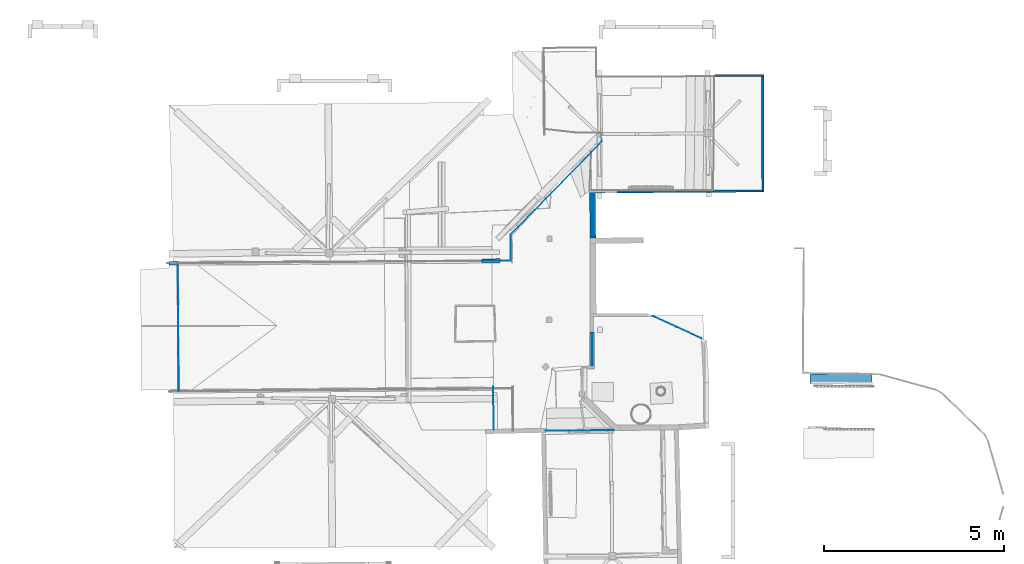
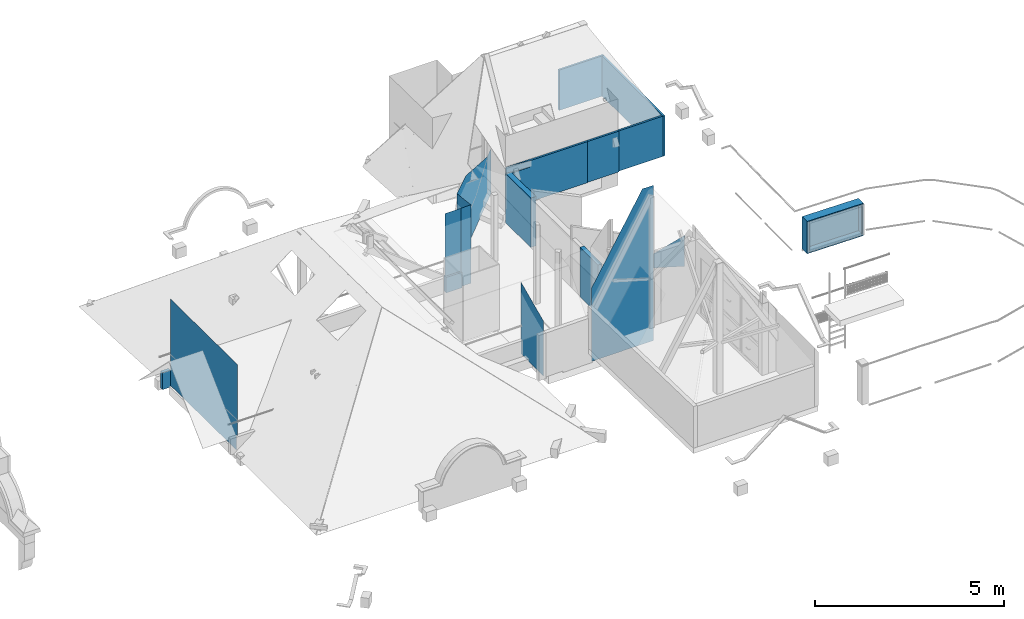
# One storey, part 12 of 39: 18 walls, 1 opening.
"""IFC2X3 building model written with IfcOpenShell, lengths in centimetres."""

from ifc_helpers import new_model, entity, si_unit, converted_unit, direction, frame, origin, origin_with_axes, origin_2d_with_axis, place, context, subcontext, project, spatial, polyline, rectangle, outline, extrude, clip, bounded_halfspace, faceted_brep, shape, material, layer, layer_set, layer_usage, type_object, element, save


model = new_model("IFC2X3")

# Units and contexts
model_context = context("Model", 3, precision=0.0001, world=origin(), true_north=direction((0.225632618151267, 0.974212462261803, 0.0)))
body_context = subcontext(model_context, "Body", "Model", "MODEL_VIEW")
footprint_context = subcontext(model_context, "FootPrint", "Model", "MODEL_VIEW")
profile_context = subcontext(model_context, "Profile", "Model", "MODEL_VIEW")
ifc_project = project(units=[si_unit("LENGTHUNIT", "METRE", prefix="CENTI"), si_unit("AREAUNIT", "SQUARE_METRE", prefix="CENTI"), si_unit("VOLUMEUNIT", "CUBIC_METRE", prefix="CENTI"), converted_unit("PLANEANGLEUNIT", "DEGREE", entity("IfcRatioMeasure", 0.0174532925), si_unit("PLANEANGLEUNIT", "RADIAN"), dimensions=[0, 0, 0, 0, 0, 0, 0])], contexts=[model_context])

# Site, building, storey
site_placement = place(None, origin_with_axes())
site = spatial("IfcSite", under=ifc_project, at=site_placement, Name="Default Site", CompositionType="ELEMENT")
building_placement = place(site_placement, origin_with_axes())
building = spatial("IfcBuilding", under=site, at=building_placement, Name="Default Building", CompositionType="ELEMENT")
storey_placement = place(building_placement, frame((0.0, 0.0, 1088.91037418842), z_axis=(0.0, 0.0, 1.0), x_axis=(1.0, 0.0, 0.0)))
storey = spatial("IfcBuildingStorey", under=building, at=storey_placement, Name="Mezzanine", CompositionType="ELEMENT", Elevation=1088.91037418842)

# Walls
ifc_material = material(Name="<aucun>")
ifc_layer_1 = layer(ifc_material, 0.0101999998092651)
ifc_layer_set_1 = layer_set([ifc_layer_1], Name="default")
ifc_layer_usage_1 = layer_usage(ifc_layer_set_1, "AXIS2", "POSITIVE", -0.0051)
wall_type_1 = type_object("IfcWallType", Name="default 0.101999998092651", PredefinedType="NOTDEFINED", material=ifc_layer_set_1)
wall_1_placement = place(storey_placement, frame((-635.646623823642, -244.404917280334, 0.0), z_axis=(0.0, 0.0, 1.0), x_axis=(-0.00657939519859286, 0.999978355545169, 0.0)))
element("IfcWall", 1, at=wall_1_placement, inside=storey, type_object=wall_type_1, material=ifc_layer_usage_1, Name="Enveloppe fantôme 2027984", context=body_context, shape_type="Brep", body=[
    faceted_brep([(350.744250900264, 2.15808539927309e-05, 1.4758109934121e-05), (5.00001343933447, 2.15350187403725e-05, 1.4758109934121e-05), (5.00001343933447, 2.15350187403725e-05, 50.0000147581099), (5.00001343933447, 2.15350187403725e-05, 57.9354433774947), (350.744250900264, 2.15808539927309e-05, 57.9354433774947), (5.00001343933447, 1.02095755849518e-05, 1.4758109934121e-05), (350.744250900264, 1.02554108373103e-05, 1.4758109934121e-05), (350.744250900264, 1.02554108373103e-05, 57.9354433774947), (5.00001343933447, 1.02095755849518e-05, 57.9354433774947), (5.00001343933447, 1.02095755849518e-05, 50.0000147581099), (5.32153689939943e-06, 1.02089127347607e-05, 50.0000147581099), (5.32153689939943e-06, 1.02089127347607e-05, 57.9354433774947), (5.32153690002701e-06, 5.47496030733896e-06, 50.0000147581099), (5.00001343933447, 5.47562315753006e-06, 50.0000147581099), (5.00001343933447, 5.47562315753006e-06, 57.9354433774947), (5.32153690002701e-06, 5.47496030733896e-06, 57.9354433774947), (5.32153689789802e-06, 2.15343558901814e-05, 57.9354433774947), (5.32153689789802e-06, 2.15343558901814e-05, 279.702392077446), (350.744250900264, 2.15808539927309e-05, 279.702392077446), (350.744250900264, 5.5214584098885e-06, 57.9354433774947), (350.744250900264, 5.5214584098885e-06, 279.702392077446), (5.32153690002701e-06, 5.47496030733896e-06, 279.702392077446)], [[[0, 1, 2, 3, 4]], [[5, 6, 7, 8, 9]], [[9, 10, 11, 8]], [[12, 13, 14, 15]], [[4, 3, 16, 17, 18]], [[15, 14, 19, 20, 21]]]),
])
ifc_layer_usage_2 = layer_usage(ifc_layer_set_1, "AXIS2", "POSITIVE", -0.0051)
wall_2_placement = place(storey_placement, frame((815.961020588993, -97.4227942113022, 0.0), z_axis=(0.0, 0.0, 1.0), x_axis=(-0.909423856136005, 0.415870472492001, 0.0)))
element("IfcWall", 2, at=wall_2_placement, inside=storey, type_object=wall_type_1, material=ifc_layer_usage_2, Name="Enveloppe fantôme 226769", context=body_context, shape_type="Brep", body=[
    faceted_brep([(75.4896628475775, -3.6314741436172e-06, 1.47581101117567e-05), (3.64554369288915e-05, -3.75471818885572e-06, 1.47581101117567e-05), (3.64554369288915e-05, -3.75471818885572e-06, 100.343909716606), (75.4896628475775, -3.6314741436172e-06, 51.2873797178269), (3.64554368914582e-05, 1.91739480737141e-05, 1.47581101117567e-05), (75.4896628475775, 1.92971921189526e-05, 1.47581101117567e-05), (75.4896628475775, 1.92971921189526e-05, 51.2873797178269), (3.64554368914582e-05, 1.91739480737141e-05, 100.343909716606), (76.987037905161, 3.47998772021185e-06, 1.47581101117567e-05), (75.4896628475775, 3.47754311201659e-06, 1.47581101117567e-05), (75.4896628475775, 3.47754311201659e-06, 51.2873797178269), (76.987037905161, 3.47998772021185e-06, 50.3143458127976), (76.987037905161, -3.62902953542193e-06, 1.47581101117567e-05), (76.987037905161, -3.62902953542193e-06, 50.3143458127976), (147.013885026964, -4.48236376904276e-06, 1.47581101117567e-05), (76.987037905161, -4.59668930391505e-06, 1.47581101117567e-05), (76.987037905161, -4.59668930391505e-06, 50.3143458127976), (147.013885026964, -4.48236376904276e-06, 4.80777308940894), (147.013885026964, 3.59431325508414e-06, 1.47581101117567e-05), (147.013885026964, 3.59431325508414e-06, 4.80777308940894)], [[[0, 1, 2, 3]], [[4, 5, 6, 7]], [[8, 9, 10, 11]], [[0, 12, 13, 3]], [[14, 15, 16, 17]], [[8, 18, 19, 11]]]),
])
ifc_layer_usage_3 = layer_usage(ifc_layer_set_1, "AXIS2", "POSITIVE", -0.0051)
wall_3_placement = place(storey_placement, frame((256.545247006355, 117.713748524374, 0.0), z_axis=(0.0, 0.0, 1.0), x_axis=(0.99997477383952, 0.00710293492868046, 0.0)))
element("IfcWall", 3, at=wall_3_placement, inside=storey, type_object=wall_type_1, material=ifc_layer_usage_3, Name="Enveloppe fantôme 228668", context=body_context, shape_type="Brep", body=[
    faceted_brep([(30.5781077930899, 5.90016191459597e-06, 1.47581101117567e-05), (1.05680192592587e-05, 5.89754891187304e-06, 1.47581101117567e-05), (1.05680192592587e-05, 5.89754891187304e-06, 253.213324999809), (30.5781077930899, 5.90016191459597e-06, 253.184619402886), (1.05680192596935e-05, 8.09304490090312e-07, 1.47581101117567e-05), (30.5781077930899, 8.11917492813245e-07, 1.47581101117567e-05), (30.5781077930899, 8.11917492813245e-07, 253.184619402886), (1.05680192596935e-05, 8.09304490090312e-07, 253.213324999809)], [[[0, 1, 2, 3]], [[4, 5, 6, 7]]]),
])
ifc_layer_usage_4 = layer_usage(ifc_layer_set_1, "AXIS2", "POSITIVE", -0.0051)
wall_4_placement = place(storey_placement, frame((287.122585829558, 117.930942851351, 0.0), z_axis=(0.0, 0.0, 1.0), x_axis=(-0.0172675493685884, 0.999850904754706, 0.0)))
element("IfcWall", 4, at=wall_4_placement, inside=storey, type_object=wall_type_1, material=ifc_layer_usage_4, Name="Enveloppe fantôme 227429", context=body_context, shape_type="Brep", body=[
    faceted_brep([(72.536596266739, 5.18929401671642e-06, 1.47581101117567e-05), (5.92419320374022e-06, 5.2163537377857e-06, 1.47581101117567e-05), (5.92419320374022e-06, 5.2163537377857e-06, 253.184619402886), (72.536596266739, 5.18929401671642e-06, 245.831313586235), (5.92419320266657e-06, 2.33832788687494e-06, 1.47581101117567e-05), (72.536596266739, 2.31126816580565e-06, 1.47581101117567e-05), (72.536596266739, 2.31126816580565e-06, 245.831313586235), (5.92419320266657e-06, 2.33832788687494e-06, 253.184619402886)], [[[0, 1, 2, 3]], [[4, 5, 6, 7]]]),
])
ifc_layer_usage_5 = layer_usage(ifc_layer_set_1, "AXIS2", "POSITIVE", -0.0051)
wall_5_placement = place(storey_placement, frame((207.132257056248, 117.362762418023, 50.0000000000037), z_axis=(0.0, 0.0, 1.0), x_axis=(0.99997477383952, 0.00710293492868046, 0.0)))
element("IfcWall", 5, at=wall_5_placement, inside=storey, type_object=wall_type_1, material=ifc_layer_usage_5, Name="Enveloppe fantôme 228670", context=body_context, shape_type="Brep", body=[
    faceted_brep([(49.4142470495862, 8.09376321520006e-07, 1.47581067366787e-05), (1.08889038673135e-05, 8.05153706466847e-07, 1.47581067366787e-05), (1.08889038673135e-05, 8.05153706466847e-07, 203.259768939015), (49.4142470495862, 8.09376321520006e-07, 203.213324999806), (1.08889038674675e-05, -9.97893834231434e-07, 1.47581067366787e-05), (49.4142470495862, -9.93671219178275e-07, 1.47581067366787e-05), (49.4142470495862, -9.93671219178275e-07, 203.213324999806), (1.08889038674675e-05, -9.97893834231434e-07, 203.259768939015)], [[[0, 1, 2, 3]], [[4, 5, 6, 7]]]),
])
ifc_layer_usage_6 = layer_usage(ifc_layer_set_1, "AXIS2", "POSITIVE", -0.0051)
wall_6_placement = place(storey_placement, frame((383.271642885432, -354.452819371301, 0.0), z_axis=(0.0, 0.0, 1.0), x_axis=(0.999963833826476, 0.00850476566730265, 0.0)))
element("IfcWall", 6, at=wall_6_placement, inside=storey, type_object=wall_type_1, material=ifc_layer_usage_6, Name="Enveloppe fantôme 226890", context=body_context, shape_type="Brep", body=[
    faceted_brep([(155.828059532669, 1.1004044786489e-05, 1.47581101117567e-05), (-6.79533220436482e-05, 1.09276905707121e-05, 1.47581101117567e-05), (-6.79533220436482e-05, 1.09276905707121e-05, 237.962642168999), (155.828059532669, 1.1004044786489e-05, 502.292170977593), (-6.79533220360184e-05, -4.64353004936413e-06, 1.47581101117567e-05), (155.828059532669, -4.56717583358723e-06, 1.47581101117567e-05), (155.828059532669, -4.56717583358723e-06, 502.292170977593), (-6.79533220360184e-05, -4.64353004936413e-06, 237.962642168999), (189.170911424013, -1.09226381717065e-05, 1.47581101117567e-05), (155.828059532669, -1.09389758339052e-05, 1.47581101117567e-05), (155.828059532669, -1.09389758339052e-05, 502.292170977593), (189.170911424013, -1.09226381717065e-05, 501.752295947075), (189.170911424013, 1.10203824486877e-05, 1.47581101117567e-05), (189.170911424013, 1.10203824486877e-05, 501.752295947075)], [[[0, 1, 2, 3]], [[4, 5, 6, 7]], [[8, 9, 10, 11]], [[0, 12, 13, 3]]]),
])
ifc_layer_usage_7 = layer_usage(ifc_layer_set_1, "AXIS2", "POSITIVE", -0.0051)
wall_7_placement = place(storey_placement, frame((238.916167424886, -350.385986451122, 0.0), z_axis=(0.0, 0.0, 1.0), x_axis=(-0.00420118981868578, 0.999991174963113, 0.0)))
element("IfcWall", 7, at=wall_7_placement, inside=storey, type_object=wall_type_1, material=ifc_layer_usage_7, Name="Enveloppe fantôme 227256", context=body_context, shape_type="Brep", body=[
    faceted_brep([(113.328633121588, -8.29036284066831e-06, 1.47581101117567e-05), (0.00237097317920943, -8.26557118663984e-06, 1.47581101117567e-05), (0.00237097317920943, -8.26557118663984e-06, 177.315345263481), (113.328633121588, -8.29036284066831e-06, 229.461875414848), (0.00237097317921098, -1.21218071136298e-06, 1.47581101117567e-05), (113.328633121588, -1.23697236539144e-06, 1.47581101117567e-05), (113.328633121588, -1.23697236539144e-06, 229.461875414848), (0.00237097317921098, -1.21218071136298e-06, 177.315345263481), (118.493158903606, -9.35280772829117e-06, 1.47581101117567e-05), (113.328633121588, -9.35167791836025e-06, 1.47581101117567e-05), (113.328633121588, -9.35167791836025e-06, 229.461875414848), (118.493158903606, -9.35280772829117e-06, 231.838336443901), (118.493158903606, -8.29149265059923e-06, 1.47581101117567e-05), (118.493158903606, -8.29149265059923e-06, 231.838336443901)], [[[0, 1, 2, 3]], [[4, 5, 6, 7]], [[8, 9, 10, 11]], [[0, 12, 13, 3]]]),
])
ifc_layer_usage_8 = layer_usage(ifc_layer_set_1, "AXIS2", "POSITIVE", -0.0051)
wall_8_placement = place(storey_placement, frame((285.872007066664, 190.458712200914, 0.0), z_axis=(0.0, 0.0, 1.0), x_axis=(0.700001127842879, 0.714141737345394, 0.0)))
element("IfcWall", 8, at=wall_8_placement, inside=storey, type_object=wall_type_1, material=ifc_layer_usage_8, Name="Enveloppe fantôme 227377", context=body_context, shape_type="Brep", body=[
    faceted_brep([(31.5076017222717, -8.77071406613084e-06, 1.47581101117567e-05), (-0.00278871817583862, -8.69507889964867e-06, 1.47581101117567e-05), (-0.00278871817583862, -8.69507889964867e-06, 245.831313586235), (31.5076017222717, -8.77071406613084e-06, 243.54478404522), (-0.00278871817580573, 5.00856218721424e-06, 1.47581101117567e-05), (31.5076017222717, 4.93292702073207e-06, 1.47581101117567e-05), (31.5076017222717, 4.93292702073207e-06, 243.54478404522), (-0.00278871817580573, 5.00856218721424e-06, 245.831313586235), (31.5260966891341, -8.25426491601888e-06, 1.47581101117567e-05), (31.5076017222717, -8.25422052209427e-06, 1.47581101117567e-05), (31.5076017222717, -8.25422052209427e-06, 243.54478404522), (31.5260966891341, -8.25426491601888e-06, 243.543353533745), (31.5260966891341, -8.77075846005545e-06, 1.47581101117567e-05), (31.5260966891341, -8.77075846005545e-06, 243.543353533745), (95.8722266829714, 1.36741419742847e-05, 1.47581101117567e-05), (31.5260966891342, 1.38285935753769e-05, 1.47581101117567e-05), (31.5260966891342, 1.38285935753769e-05, 243.543353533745), (95.8722266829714, 1.36741419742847e-05, 238.838401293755), (95.8722266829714, -8.40871651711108e-06, 1.47581101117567e-05), (95.8722266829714, -8.40871651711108e-06, 238.838401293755), (140.426740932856, -8.05928022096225e-06, 1.47581101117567e-05), (95.8722266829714, -7.95233492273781e-06, 1.47581101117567e-05), (95.8722266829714, -7.95233492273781e-06, 238.838496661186), (140.426740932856, -8.05928022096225e-06, 220.563235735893), (140.426740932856, 1.35671966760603e-05, 1.47581101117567e-05), (140.426740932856, 1.35671966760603e-05, 220.563235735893), (95.8722266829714, 1.36741419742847e-05, 238.838496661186), (320.501460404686, 3.01530964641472e-06, 1.47581101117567e-05), (140.426740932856, 3.44754743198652e-06, 1.47581101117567e-05), (140.426740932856, 3.44754743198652e-06, 220.563235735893), (320.501460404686, 3.01530964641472e-06, 146.700778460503), (320.501460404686, -8.49151800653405e-06, 1.47581101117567e-05), (320.501460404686, -8.49151800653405e-06, 146.700778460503)], [[[0, 1, 2, 3]], [[4, 5, 6, 7]], [[8, 9, 10, 11]], [[0, 12, 13, 3]], [[14, 15, 16, 17]], [[8, 18, 19, 11]], [[20, 21, 22, 23]], [[14, 24, 25, 26]], [[27, 28, 29, 30]], [[20, 31, 32, 23]]]),
    faceted_brep([(362.747864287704, -2.85990893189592e-06, 1.47581101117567e-05), (320.501460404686, -2.75850384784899e-06, 1.47581101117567e-05), (320.501460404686, -2.75850384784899e-06, 146.702018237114), (362.747864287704, -2.85990893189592e-06, 146.702018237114), (320.501460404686, 3.01530964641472e-06, 1.47581101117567e-05), (362.747864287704, 2.9139045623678e-06, 1.47581101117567e-05), (362.747864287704, 2.9139045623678e-06, 146.702018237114), (320.501460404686, 3.01530964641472e-06, 146.702018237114)], [[[0, 1, 2, 3]], [[4, 5, 6, 7]]]),
])
ifc_layer_2 = layer(ifc_material, 12.0)
ifc_layer_set_2 = layer_set([ifc_layer_2], Name="default")
ifc_layer_usage_9 = layer_usage(ifc_layer_set_2, "AXIS2", "POSITIVE", -6.0)
wall_type_2 = type_object("IfcWallType", Name="default 120", PredefinedType="NOTDEFINED", material=ifc_layer_set_2)
wall_9_placement = place(storey_placement, frame((511.84160114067, -175.23904803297, 1.06581410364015e-12), z_axis=(0.0, 0.0, 1.0), x_axis=(0.00343882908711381, 0.999994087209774, 0.0)))
element("IfcWall", 9, at=wall_9_placement, inside=storey, type_object=wall_type_2, material=ifc_layer_usage_9, Name="Enveloppe 195480", context=body_context, shape_type="Brep", body=[
    faceted_brep([(-2.01728322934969e-07, 5.99999995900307, 159.702411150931), (94.7763859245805, 5.99999997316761, 159.702411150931), (94.7763859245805, 5.99999997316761, 1.47581088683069e-05), (-2.01728322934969e-07, 5.99999995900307, 1.47581088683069e-05), (-4.46803349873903e-06, -6.00001188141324, 1.47581088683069e-05), (94.7763876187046, -6.00001186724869, 1.47581088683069e-05), (94.7763876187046, -6.00001186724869, 159.702411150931), (-4.46803349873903e-06, -6.00001188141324, 159.702411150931), (-1.99934894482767e-07, -6.00001188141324, 1.47581088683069e-05), (-1.99934894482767e-07, -6.00001188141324, 159.702411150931), (94.7763859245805, 6.00000155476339, 159.702411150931), (94.7763859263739, -6.00001026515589, 159.702411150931), (94.7763859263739, -6.00001026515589, 1.47581088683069e-05), (94.7763859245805, 6.00000155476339, 1.47581088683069e-05), (94.7763876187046, -6.00001026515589, 159.702411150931), (94.7763876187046, -6.00001026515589, 1.47581088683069e-05)], [[[0, 1, 2, 3]], [[4, 5, 6, 7]], [[3, 8, 9, 0]], [[10, 11, 12, 13]], [[7, 14, 10, 0]], [[3, 13, 15, 4]]]),
])

# Wall, opening
ifc_layer_3 = layer(ifc_material, 26.5)
ifc_layer_set_3 = layer_set([ifc_layer_3], Name="default")
ifc_layer_usage_10 = layer_usage(ifc_layer_set_3, "AXIS2", "POSITIVE", -13.25)
wall_type_3 = type_object("IfcWallType", Name="default 265", PredefinedType="NOTDEFINED", material=ifc_layer_set_3)
wall_10_placement = place(storey_placement, frame((1291.14784019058, -210.696308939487, 10.0000000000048), z_axis=(0.0, 0.0, 1.0), x_axis=(-0.999951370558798, 0.00986187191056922, 0.0)))
wall_10 = element("IfcWallStandardCase", 10, at=wall_10_placement, inside=storey, type_object=wall_type_3, material=ifc_layer_usage_10, Name="Enveloppe 1519655", context=body_context, shape_type="SweptSolid", body=[
    extrude(rectangle(XDim=26.4993210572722, YDim=171.382387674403, at=origin_2d_with_axis()), frame((87.5046218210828, -4.44089209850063e-13, 1.77635683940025e-13), z_axis=(0.0, 0.0, 1.0), x_axis=(-2.52684663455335e-07, -0.999999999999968, 0.0)), (0.0, 0.0, 1.0), 104.702416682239),
])
opening_placement = place(wall_10_placement, frame((3.14685166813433e-10, 2.8421709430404e-14, -4.79261075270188e-12), z_axis=(0.0, 0.0, 1.0), x_axis=(-1.0, 4.22752111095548e-15, 0.0)))
cartesian_point_1 = entity("IfcCartesianPoint", [-1.77635683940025e-13, 4.44089209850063e-14, 102.5])
cartesian_point_2 = entity("IfcCartesianPoint", [-171.195813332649, -13.2499999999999])
element("IfcOpeningElement", 11, at=opening_placement, cuts=wall_10, Name="4294966500_11", ObjectType="Opening", shapes=[
    shape(body_context, "Body", "Brep", [faceted_brep([(-4.99997798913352, -33.2500047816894, 102.50001475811), (-166.195847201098, -33.2500048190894, 102.50001475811), (-166.195847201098, -33.2500048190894, 3.50003764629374), (-4.99997798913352, -33.2500047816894, 3.50003764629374), (2.54362811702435e-05, 33.2499991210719, -4.24623488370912e-05), (-171.195795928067, 33.2499990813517, -4.24623488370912e-05), (-171.195795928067, 33.2499990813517, 102.50001475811), (2.54362811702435e-05, 33.2499991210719, 102.50001475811), (-4.99997799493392, -8.25000519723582, 3.50003764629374), (-4.99997799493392, -8.25000519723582, 102.50001475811), (-4.99999997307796, -8.25000519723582, 102.50001475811), (-4.99999997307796, -8.25000519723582, 3.50003764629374), (-2.38968857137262e-05, -8.25000519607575, 3.50003764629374), (-2.38968857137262e-05, -8.25000519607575, 102.50001475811), (-2.38968857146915e-05, -8.25000103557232, 102.50001475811), (-2.38968857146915e-05, -8.25000103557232, 3.50003764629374), (-2.39065143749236e-05, 33.2499991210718, -4.24623488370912e-05), (-2.39065143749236e-05, 33.2499991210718, 102.50001475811), (-166.195847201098, -33.249994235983, 3.50003764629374), (-166.195773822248, -8.24999371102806, 3.50003764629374), (-171.195845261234, -8.24999887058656, 3.50003729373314), (-171.195795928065, 32.7336809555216, -3.17172474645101), (2.54362834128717e-05, 32.7336787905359, -3.1717243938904), (-166.195847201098, -33.249994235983, 102.50001475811), (-166.195847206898, -8.24999371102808, 102.50001475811), (-166.195847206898, -8.24999371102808, 3.50003764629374), (-166.195773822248, -8.24999371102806, 102.50001475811), (-171.195845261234, -8.24999371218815, 102.50001475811), (-171.195845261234, -8.24999371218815, 3.50003764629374), (-171.195845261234, -8.24999881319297, 3.50003764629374), (-171.195845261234, -8.24999881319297, 102.50001475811), (-171.195845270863, 33.2500013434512, 102.50001475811), (-171.195845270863, 33.2500013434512, -4.24623488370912e-05), (-171.195795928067, 33.2500013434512, 102.50001475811)], [[[0, 1, 2, 3]], [[4, 5, 6, 7]], [[0, 3, 8, 9]], [[10, 11, 12, 13]], [[14, 15, 16, 17]], [[3, 18, 19, 11]], [[15, 20, 21, 22]], [[18, 23, 24, 25]], [[19, 26, 27, 28]], [[29, 30, 31, 32]], [[10, 14, 7, 33, 30, 26, 23, 0]]])]),
    shape(profile_context, "Profile", "GeometricCurveSet", [entity("IfcGeometricCurveSet", [entity("IfcPolyline", [cartesian_point_1, entity("IfcCartesianPoint", [-1.77635683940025e-13, 4.44089209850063e-14, 0.0]), entity("IfcCartesianPoint", [-171.195813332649, 6.66133814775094e-14, 0.0]), entity("IfcCartesianPoint", [-171.195813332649, 6.66133814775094e-14, 102.5]), cartesian_point_1])])]),
    shape(footprint_context, "FootPrint", "GeometricCurveSet", [entity("IfcGeometricCurveSet", [entity("IfcPolyline", [cartesian_point_2, entity("IfcCartesianPoint", [0.0, -13.25]), entity("IfcCartesianPoint", [-1.77635683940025e-13, 13.25]), entity("IfcCartesianPoint", [-171.195813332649, 13.25]), cartesian_point_2])])]),
])

# Walls
ifc_layer_usage_11 = layer_usage(ifc_layer_set_2, "AXIS2", "POSITIVE", -6.0)
wall_type_4 = type_object("IfcWallType", Name="default 120", PredefinedType="NOTDEFINED", material=ifc_layer_set_2)
wall_11_placement = place(storey_placement, frame((207.126542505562, 117.363195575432, 4.79616346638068e-12), z_axis=(0.0, 0.0, 1.0), x_axis=(0.999974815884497, 0.00709701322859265, 0.0)))
element("IfcWallStandardCase", 12, at=wall_11_placement, inside=storey, type_object=wall_type_4, material=ifc_layer_usage_11, Name="Enveloppe 201482", context=body_context, shape_type="SweptSolid", body=[
    extrude(rectangle(XDim=49.3230307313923, YDim=12.0, at=origin_2d_with_axis()), frame((24.758432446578, -4.44089209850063e-14, -5.86197757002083e-12), z_axis=(0.0, 0.0, 1.0), x_axis=(1.0, -1.8249290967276e-15, 0.0)), (0.0, 0.0, 1.0), 50.0000000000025),
])
ifc_layer_4 = layer(ifc_material, 10.0)
ifc_layer_set_4 = layer_set([ifc_layer_4], Name="default")
ifc_layer_usage_12 = layer_usage(ifc_layer_set_4, "AXIS2", "POSITIVE", -5.0)
wall_type_5 = type_object("IfcWallType", Name="default 100", PredefinedType="NOTDEFINED", material=ifc_layer_set_4)
wall_12_placement = place(storey_placement, frame((-662.476126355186, 111.185834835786, -4.99999999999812), z_axis=(0.0, 0.0, 1.0), x_axis=(0.99998227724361, 0.00595358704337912, 0.0)))
element("IfcWallStandardCase", 13, at=wall_12_placement, inside=storey, type_object=wall_type_5, material=ifc_layer_usage_12, Name="Enveloppe 2027986", context=body_context, shape_type="SweptSolid", body=[
    extrude(outline(polyline([(-0.168749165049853, 5.0), (2.66453525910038e-13, -5.00000000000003), (24.48935453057, -4.99999999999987), (24.48935453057, 5.00000000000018), (-0.168749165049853, 5.0)])), frame((0.0, 0.0, -5.32907051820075e-13), z_axis=(0.0, 0.0, 1.0), x_axis=(1.0, 0.0, 0.0)), (0.0, 0.0, 1.0), 55.0000000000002),
])
ifc_layer_5 = layer(ifc_material, 6.0)
ifc_layer_set_5 = layer_set([ifc_layer_5], Name="default")
ifc_layer_usage_13 = layer_usage(ifc_layer_set_5, "AXIS2", "POSITIVE", -3.0)
wall_type_6 = type_object("IfcWallType", Name="default 60", PredefinedType="NOTDEFINED", material=ifc_layer_set_5)
wall_13_placement = place(storey_placement, frame((752.99042888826, 310.122917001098, 48.0000000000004), z_axis=(0.0, 0.0, 1.0), x_axis=(0.999996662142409, 0.00258373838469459, 0.0)))
element("IfcWallStandardCase", 14, at=wall_13_placement, inside=storey, type_object=wall_type_6, material=ifc_layer_usage_13, Name="Enveloppe 225974", context=body_context, shape_type="SweptSolid", body=[
    extrude(rectangle(XDim=96.0419402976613, YDim=6.00000000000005, at=origin_2d_with_axis()), frame((48.0209701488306, 2.66453525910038e-13, -3.5527136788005e-13), z_axis=(0.0, 0.0, 1.0), x_axis=(1.0, 8.43639394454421e-15, 0.0)), (0.0, 0.0, 1.0), 132.004751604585),
])
ifc_layer_usage_14 = layer_usage(ifc_layer_set_5, "AXIS2", "POSITIVE", -3.0)
wall_14_placement = place(storey_placement, frame((852.45601414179, 632.667692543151, 50.0000000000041), z_axis=(0.0, 0.0, 1.0), x_axis=(0.99999747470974, 0.002247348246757, 0.0)))
element("IfcWallStandardCase", 15, at=wall_14_placement, inside=storey, type_object=wall_type_6, material=ifc_layer_usage_14, Name="Enveloppe 192890", context=body_context, shape_type="SweptSolid", body=[
    extrude(outline(polyline([(-0.0375514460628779, -3.00000000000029), (136.932197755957, -2.9999999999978), (136.939726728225, 3.00000000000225), (0.0, 3.00000000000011), (0.0, -2.54995623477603), (-0.0317701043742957, -2.54999978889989), (-0.0375514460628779, -3.00000000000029)])), origin_with_axes(), (0.0, 0.0, 1.0), 130.004751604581),
])
ifc_layer_usage_15 = layer_usage(ifc_layer_set_5, "AXIS2", "POSITIVE", -3.0)
wall_15_placement = place(storey_placement, frame((582.017239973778, 309.681165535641, 47.0000000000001), z_axis=(0.0, 0.0, 1.0), x_axis=(0.999996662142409, 0.00258373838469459, 0.0)))
element("IfcWallStandardCase", 16, at=wall_15_placement, inside=storey, type_object=wall_type_6, material=ifc_layer_usage_15, Name="Enveloppe 193857", context=body_context, shape_type="Clipping", body=[
    clip(clip(clip(extrude(outline(polyline([(-76.6406258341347, 3.77778941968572), (-60.634538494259, 2.36227528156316), (-60.5904062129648, -3.45932281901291), (-8.88178419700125e-14, -3.00000000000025), (170.973759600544, -2.99999999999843), (170.973759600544, 3.00000000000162), (-3.5527136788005e-13, 3.00000000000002), (0.000618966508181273, 3.71179610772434), (-76.6406258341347, 3.77778941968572)])), frame((0.0, 0.0, -8.88178419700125e-13), z_axis=(0.0, 0.0, 1.0), x_axis=(1.0, 0.0, 0.0)), (0.0, 0.0, 1.0), 133.004751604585), bounded_halfspace(frame((-60.6393729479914, 3.00000000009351, 0.999999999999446), z_axis=(0.0, 0.0, 1.0), x_axis=(1.0, -3.96722151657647e-13, 0.0)), True, frame((-60.6393729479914, 3.00000000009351, 0.999999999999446), z_axis=(0.0, 0.0, 1.0), x_axis=(1.0, 0.0, 0.0)), polyline([(0.0, -4.44089209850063e-14), (60.6393729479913, -2.40252262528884e-11), (60.6393729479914, -6.00000000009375), (0.0489667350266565, -6.45932281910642), (0.0, -4.44089209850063e-14)]))), bounded_halfspace(frame((0.000618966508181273, 3.71179610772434, 112.702416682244), z_axis=(0.0, 0.0, 1.0), x_axis=(-0.000869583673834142, -0.999999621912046, 0.0)), True, frame((0.000618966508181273, 3.71179610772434, 112.702416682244), z_axis=(0.0, 0.0, 1.0), x_axis=(1.0, 0.0, 0.0)), polyline([(-76.6412448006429, 0.0659933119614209), (0.0, 4.44089209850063e-14), (-0.000618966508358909, -0.711796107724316), (-60.6399919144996, -0.71179610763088), (-60.6351574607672, -1.34952082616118), (-76.6412448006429, 0.0659933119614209)]))), bounded_halfspace(frame((-8.88178419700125e-14, -3.00000000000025, 112.702416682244), z_axis=(0.0, 0.0, -1.0), x_axis=(-0.996112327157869, 0.0880921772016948, 0.0)), True, frame((-8.88178419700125e-14, -3.00000000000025, 112.702416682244), z_axis=(0.0, 0.0, 1.0), x_axis=(1.0, 0.0, 0.0)), polyline([(-60.6345384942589, 5.36227528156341), (-60.5904062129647, -0.459322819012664), (0.0, 0.0), (-60.6345384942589, 5.36227528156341)]))),
])
ifc_layer_usage_16 = layer_usage(ifc_layer_set_5, "AXIS2", "POSITIVE", -3.0)
wall_16_placement = place(storey_placement, frame((986.707307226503, 314.919017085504, 50.0000000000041), z_axis=(0.0, 0.0, 1.0), x_axis=(-0.000992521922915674, 0.999999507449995, 0.0)))
element("IfcWallStandardCase", 17, at=wall_16_placement, inside=storey, type_object=wall_type_6, material=ifc_layer_usage_16, Name="Enveloppe 193067", context=body_context, shape_type="SweptSolid", body=[
    extrude(outline(polyline([(315.046066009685, 2.99999999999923), (-6.03939590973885, 3.00000000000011), (-5.99974197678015, -3.00000000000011), (315.053594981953, -3.00000000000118), (315.046066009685, 2.99999999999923)])), frame((0.0, 0.0, -3.5527136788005e-13), z_axis=(0.0, 0.0, 1.0), x_axis=(1.0, 0.0, 0.0)), (0.0, 0.0, 1.0), 130.004751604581),
])
ifc_layer_usage_17 = layer_usage(ifc_layer_set_5, "AXIS2", "POSITIVE", -3.0)
wall_17_placement = place(storey_placement, frame((849.045856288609, 310.853050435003, 50.0000000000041), z_axis=(0.0, 0.0, 1.0), x_axis=(0.999971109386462, 0.00760134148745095, 0.0)))
element("IfcWallStandardCase", 18, at=wall_17_placement, inside=storey, type_object=wall_type_6, material=ifc_layer_usage_17, Name="Enveloppe 193082", context=body_context, shape_type="SweptSolid", body=[
    extrude(outline(polyline([(0.000401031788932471, 2.99693620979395), (-0.0301062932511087, -3.00000000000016), (134.648532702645, -2.99999999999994), (134.688186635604, 3.0000000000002), (0.000401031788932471, 2.99693620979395)])), frame((0.0, 0.0, -3.5527136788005e-13), z_axis=(0.0, 0.0, 1.0), x_axis=(1.0, 0.0, 0.0)), (0.0, 0.0, 1.0), 130.004751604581),
])
ifc_layer_6 = layer(ifc_material, 16.0)
ifc_layer_set_6 = layer_set([ifc_layer_6], Name="default")
ifc_layer_usage_18 = layer_usage(ifc_layer_set_6, "AXIS2", "POSITIVE", -8.0)
wall_type_7 = type_object("IfcWallType", Name="default 160", PredefinedType="NOTDEFINED", material=ifc_layer_set_6)
wall_18_placement = place(storey_placement, frame((514.785876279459, 173.222083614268, 1.75859327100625e-11), z_axis=(0.0, 0.0, 1.0), x_axis=(-0.0101642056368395, 0.99994834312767, 0.0)))
element("IfcWallStandardCase", 19, at=wall_18_placement, inside=storey, type_object=wall_type_7, material=ifc_layer_usage_18, Name="Enveloppe 192765", context=body_context, shape_type="Clipping", body=[
    clip(extrude(outline(polyline([(140.127238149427, 7.99490272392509), (7.97149185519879, 8.00000000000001), (8.02785720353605, -7.9999923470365), (139.228274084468, -7.99999999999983), (138.768593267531, -68.6376306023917), (139.479609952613, -68.6436389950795), (140.127238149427, 7.99490272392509)])), frame((0.0, 0.0, -1.63424829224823e-11), z_axis=(0.0, 0.0, 1.0), x_axis=(1.0, 0.0, 0.0)), (0.0, 0.0, 1.0), 159.702416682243), bounded_halfspace(frame((139.228274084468, -7.99999999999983, 47.9999999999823), z_axis=(0.0, 0.0, 1.0), x_axis=(1.0, -4.88584867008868e-14, 0.0)), True, frame((139.228274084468, -7.99999999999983, 47.9999999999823), z_axis=(0.0, 0.0, 1.0), x_axis=(1.0, 0.0, 0.0)), polyline([(-0.459680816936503, -60.6376306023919), (0.0, 0.0), (0.763800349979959, -1.77635683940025e-13), (0.251335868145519, -60.6436389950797), (-0.459680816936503, -60.6376306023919)]))),
])

save(model, "model.ifc")
